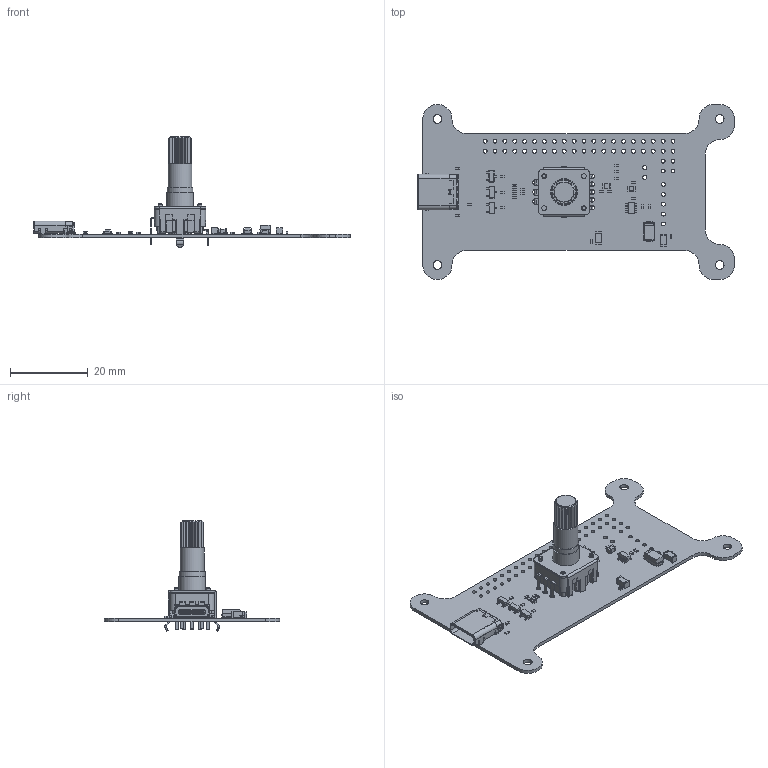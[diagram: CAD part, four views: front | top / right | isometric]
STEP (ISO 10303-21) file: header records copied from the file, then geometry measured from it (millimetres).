
FILE_DESCRIPTION(('KiCad electronic assembly'),'2;1');
FILE_NAME('CRT_Daughter.step','2025-02-21T21:46:13',('Pcbnew'),('Kicad') ,'Open CASCADE STEP processor 7.8','KiCad to STEP converter','Unknown' );
FILE_SCHEMA(('AUTOMOTIVE_DESIGN { 1 0 10303 214 1 1 1 1 }'));
Length unit declared in the file: millimetre
Products named in the file (11): CRT_Daughter 1; SOT-23; R_0402_1005Metric; C_1206_3216Metric; C_0805_2012Metric; C_0402_1005Metric; D_SMA; USB_C_Receptacle_Amphenol_12401610E4-2A; PEL12T-4225S; SOT-23-6; CRT_Daughter_PCB
Assembly tree (35 placements, depth 2):
  CRT_Daughter 1
    SOT-23  x3
    R_0402_1005Metric  x17
    C_1206_3216Metric  x2
    C_0805_2012Metric  x2
    C_0402_1005Metric  x6
    D_SMA
    USB_C_Receptacle_Amphenol_12401610E4-2A
    PEL12T-4225S
    SOT-23-6
    CRT_Daughter_PCB
Bounding box: 81.32 x 45 x 28.44 mm (x, y, z)
Volume: 3662.9 mm3; surface area: 8918 mm2
Topology: 73 solids, 73 shells, 2614 faces, 6843 edges, 4387 vertices
Faces by surface type: plane 1705, cylinder 694, bspline 203, cone 11, torus 1
Full cylindrical faces by diameter (mm): 0.4 x1, 0.6 x3, 0.65 x1, 1 x51, 1.031 x1, 1.067 x1, 1.2 x12, 1.3 x4, 2.2 x4, 5.5 x1, 6 x2, 6.1 x1, 6.2 x1, 6.4 x3, 6.625 x1, 6.849 x1, 9.2 x1, 10 x1, 10.6 x1, 10.8 x1
Entity records: 72004 total; most frequent: CARTESIAN_POINT 13850, ORIENTED_EDGE 9782, DIRECTION 9044, EDGE_CURVE 4891, LINE 3516, VECTOR 3516, VERTEX_POINT 3135, AXIS2_PLACEMENT_3D 2764
